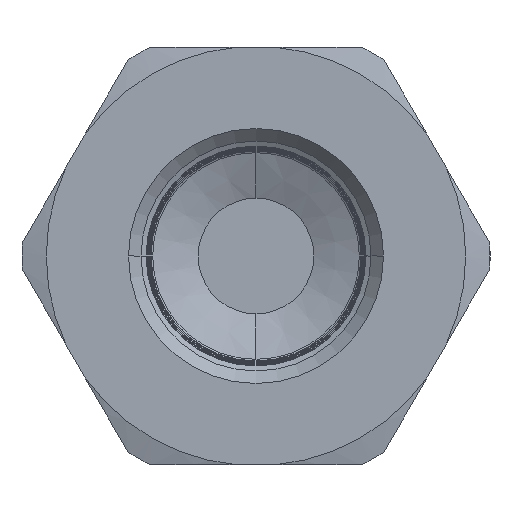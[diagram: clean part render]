
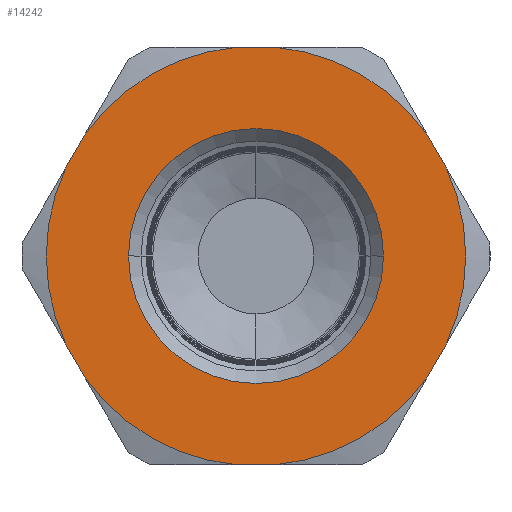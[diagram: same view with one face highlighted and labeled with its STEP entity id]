
A CAD part, left-side view. The second image highlights one B-rep face of the part: STEP entity #14242.
In plain terms, the highlighted planar face has unit normal (-1, 0, 0).
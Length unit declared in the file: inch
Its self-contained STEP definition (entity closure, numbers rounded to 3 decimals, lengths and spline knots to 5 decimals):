
#187 = ORIENTED_EDGE ( 'NONE', *, *, #14302, .T. ) ;
#188 = ORIENTED_EDGE ( 'NONE', *, *, #14319, .F. ) ;
#192 = ORIENTED_EDGE ( 'NONE', *, *, #14320, .F. ) ;
#195 = ORIENTED_EDGE ( 'NONE', *, *, #14316, .T. ) ;
#198 = ORIENTED_EDGE ( 'NONE', *, *, #14321, .F. ) ;
#200 = ORIENTED_EDGE ( 'NONE', *, *, #14305, .T. ) ;
#204 = ORIENTED_EDGE ( 'NONE', *, *, #14322, .F. ) ;
#206 = ORIENTED_EDGE ( 'NONE', *, *, #14281, .T. ) ;
#207 = ORIENTED_EDGE ( 'NONE', *, *, #14323, .F. ) ;
#208 = ORIENTED_EDGE ( 'NONE', *, *, #14288, .T. ) ;
#253 = ORIENTED_EDGE ( 'NONE', *, *, #14170, .T. ) ;
#255 = ORIENTED_EDGE ( 'NONE', *, *, #14275, .T. ) ;
#256 = ORIENTED_EDGE ( 'NONE', *, *, #14318, .F. ) ;
#257 = ORIENTED_EDGE ( 'NONE', *, *, #14295, .T. ) ;
#1076 = VERTEX_POINT ( 'NONE', #15683 ) ;
#1077 = VERTEX_POINT ( 'NONE', #15685 ) ;
#1098 = VERTEX_POINT ( 'NONE', #15723 ) ;
#1108 = VERTEX_POINT ( 'NONE', #15742 ) ;
#1114 = VERTEX_POINT ( 'NONE', #15754 ) ;
#1115 = VERTEX_POINT ( 'NONE', #15756 ) ;
#1120 = VERTEX_POINT ( 'NONE', #15766 ) ;
#1121 = VERTEX_POINT ( 'NONE', #15768 ) ;
#1126 = VERTEX_POINT ( 'NONE', #15778 ) ;
#1127 = VERTEX_POINT ( 'NONE', #15780 ) ;
#1128 = VERTEX_POINT ( 'NONE', #15782 ) ;
#1133 = VERTEX_POINT ( 'NONE', #15792 ) ;
#1136 = VERTEX_POINT ( 'NONE', #15798 ) ;
#1139 = VERTEX_POINT ( 'NONE', #15804 ) ;
#1602 = EDGE_LOOP ( 'NONE', ( #256, #257, #188, #187, #192, #195, #198, #200, #204, #206, #207, #208 ) ) ;
#1768 = AXIS2_PLACEMENT_3D ( 'NONE', #11918, #11923, #11924 ) ;
#1922 = VECTOR ( 'NONE', #12169, 39.37008 ) ;
#1953 = CIRCLE ( 'NONE', #1969, 0.345 ) ;
#1960 = AXIS2_PLACEMENT_3D ( 'NONE', #12066, #12067, #12068 ) ;
#1969 = AXIS2_PLACEMENT_3D ( 'NONE', #12158, #12159, #12160 ) ;
#1971 = VECTOR ( 'NONE', #12172, 39.37008 ) ;
#1972 = VECTOR ( 'NONE', #12166, 39.37008 ) ;
#1984 = VECTOR ( 'NONE', #12188, 39.37008 ) ;
#1997 = CIRCLE ( 'NONE', #2264, 0.345 ) ;
#2024 = VECTOR ( 'NONE', #12175, 39.37008 ) ;
#2029 = VECTOR ( 'NONE', #12181, 39.37008 ) ;
#2042 = CIRCLE ( 'NONE', #2120, 0.345 ) ;
#2120 = AXIS2_PLACEMENT_3D ( 'NONE', #12089, #12090, #12091 ) ;
#2128 = CIRCLE ( 'NONE', #2158, 0.345 ) ;
#2158 = AXIS2_PLACEMENT_3D ( 'NONE', #12112, #12113, #12114 ) ;
#2264 = AXIS2_PLACEMENT_3D ( 'NONE', #12123, #12124, #12125 ) ;
#2712 = CIRCLE ( 'NONE', #2715, 0.20972 ) ;
#2715 = AXIS2_PLACEMENT_3D ( 'NONE', #12024, #12025, #12026 ) ;
#2716 = CIRCLE ( 'NONE', #2723, 0.345 ) ;
#2722 = CIRCLE ( 'NONE', #1960, 0.345 ) ;
#2723 = AXIS2_PLACEMENT_3D ( 'NONE', #12043, #12044, #12045 ) ;
#3387 = AXIS2_PLACEMENT_3D ( 'NONE', #11662, #11663, #11664 ) ;
#3389 = CIRCLE ( 'NONE', #3387, 0.20972 ) ;
#9708 = EDGE_LOOP ( 'NONE', ( #253, #255 ) ) ;
#11662 = CARTESIAN_POINT ( 'NONE',  ( 0., 0., 0. ) ) ;
#11663 = DIRECTION ( 'NONE',  ( 1., 0., 0. ) ) ;
#11664 = DIRECTION ( 'NONE',  ( 0., 1., 0. ) ) ;
#11918 = CARTESIAN_POINT ( 'NONE',  ( 0., 0.39693, 0. ) ) ;
#11920 = FACE_BOUND ( 'NONE', #9708, .T. ) ;
#11921 = FACE_OUTER_BOUND ( 'NONE', #1602, .T. ) ;
#11922 = PLANE ( 'NONE',  #1768 ) ;
#11923 = DIRECTION ( 'NONE',  ( 1., 0., 0. ) ) ;
#11924 = DIRECTION ( 'NONE',  ( 0., 0., -1. ) ) ;
#12024 = CARTESIAN_POINT ( 'NONE',  ( 0., 0., 0. ) ) ;
#12025 = DIRECTION ( 'NONE',  ( 1., 0., 0. ) ) ;
#12026 = DIRECTION ( 'NONE',  ( 0., 1., 0. ) ) ;
#12043 = CARTESIAN_POINT ( 'NONE',  ( 0., 0., 0. ) ) ;
#12044 = DIRECTION ( 'NONE',  ( -1., 0., 0. ) ) ;
#12045 = DIRECTION ( 'NONE',  ( 0., 0., -1. ) ) ;
#12066 = CARTESIAN_POINT ( 'NONE',  ( 0., 0., 0. ) ) ;
#12067 = DIRECTION ( 'NONE',  ( -1., 0., 0. ) ) ;
#12068 = DIRECTION ( 'NONE',  ( 0., 0., -1. ) ) ;
#12089 = CARTESIAN_POINT ( 'NONE',  ( 0., 0., 0. ) ) ;
#12090 = DIRECTION ( 'NONE',  ( -1., 0., 0. ) ) ;
#12091 = DIRECTION ( 'NONE',  ( 0., 0., -1. ) ) ;
#12112 = CARTESIAN_POINT ( 'NONE',  ( 0., 0., 0. ) ) ;
#12113 = DIRECTION ( 'NONE',  ( -1., 0., 0. ) ) ;
#12114 = DIRECTION ( 'NONE',  ( 0., 0., -1. ) ) ;
#12123 = CARTESIAN_POINT ( 'NONE',  ( 0., 0., 0. ) ) ;
#12124 = DIRECTION ( 'NONE',  ( -1., 0., 0. ) ) ;
#12125 = DIRECTION ( 'NONE',  ( 0., 0., -1. ) ) ;
#12158 = CARTESIAN_POINT ( 'NONE',  ( 0., 0., 0. ) ) ;
#12159 = DIRECTION ( 'NONE',  ( -1., 0., 0. ) ) ;
#12160 = DIRECTION ( 'NONE',  ( 0., 0., -1. ) ) ;
#12164 = LINE ( 'NONE', #12165, #1972 ) ;
#12165 = CARTESIAN_POINT ( 'NONE',  ( 0., 0.19846, 0.34375 ) ) ;
#12166 = DIRECTION ( 'NONE',  ( 0., -1., 0. ) ) ;
#12167 = LINE ( 'NONE', #12168, #1922 ) ;
#12168 = CARTESIAN_POINT ( 'NONE',  ( 0., 0.39693, 0. ) ) ;
#12169 = DIRECTION ( 'NONE',  ( 0., -0.5, 0.866 ) ) ;
#12170 = LINE ( 'NONE', #12171, #1971 ) ;
#12171 = CARTESIAN_POINT ( 'NONE',  ( 0., 0.19846, -0.34375 ) ) ;
#12172 = DIRECTION ( 'NONE',  ( 0., 0.5, 0.866 ) ) ;
#12173 = LINE ( 'NONE', #12174, #2024 ) ;
#12174 = CARTESIAN_POINT ( 'NONE',  ( 0., -0.19846, -0.34375 ) ) ;
#12175 = DIRECTION ( 'NONE',  ( 0., 1., 0. ) ) ;
#12176 = LINE ( 'NONE', #12179, #2029 ) ;
#12179 = CARTESIAN_POINT ( 'NONE',  ( 0., -0.39693, 0. ) ) ;
#12181 = DIRECTION ( 'NONE',  ( 0., 0.5, -0.866 ) ) ;
#12183 = LINE ( 'NONE', #12186, #1984 ) ;
#12186 = CARTESIAN_POINT ( 'NONE',  ( 0., -0.19846, 0.34375 ) ) ;
#12188 = DIRECTION ( 'NONE',  ( 0., -0.5, -0.866 ) ) ;
#14170 = EDGE_CURVE ( 'NONE', #1076, #1077, #3389, .T. ) ;
#14242 = ADVANCED_FACE ( 'NONE', ( #11920, #11921 ), #11922, .F. ) ;
#14275 = EDGE_CURVE ( 'NONE', #1077, #1076, #2712, .T. ) ;
#14281 = EDGE_CURVE ( 'NONE', #1098, #1108, #2716, .T. ) ;
#14288 = EDGE_CURVE ( 'NONE', #1115, #1114, #2722, .T. ) ;
#14295 = EDGE_CURVE ( 'NONE', #1121, #1120, #2042, .T. ) ;
#14302 = EDGE_CURVE ( 'NONE', #1127, #1126, #2128, .T. ) ;
#14305 = EDGE_CURVE ( 'NONE', #1133, #1128, #1997, .T. ) ;
#14316 = EDGE_CURVE ( 'NONE', #1136, #1139, #1953, .T. ) ;
#14318 = EDGE_CURVE ( 'NONE', #1121, #1114, #12164, .T. ) ;
#14319 = EDGE_CURVE ( 'NONE', #1127, #1120, #12167, .T. ) ;
#14320 = EDGE_CURVE ( 'NONE', #1136, #1126, #12170, .T. ) ;
#14321 = EDGE_CURVE ( 'NONE', #1133, #1139, #12173, .T. ) ;
#14322 = EDGE_CURVE ( 'NONE', #1098, #1128, #12176, .T. ) ;
#14323 = EDGE_CURVE ( 'NONE', #1115, #1108, #12183, .T. ) ;
#15683 = CARTESIAN_POINT ( 'NONE',  ( 0., -0.20972, 0. ) ) ;
#15685 = CARTESIAN_POINT ( 'NONE',  ( 0., 0.20972, 0. ) ) ;
#15723 = CARTESIAN_POINT ( 'NONE',  ( 0., -0.31237, -0.14646 ) ) ;
#15742 = CARTESIAN_POINT ( 'NONE',  ( 0., -0.31237, 0.14646 ) ) ;
#15754 = CARTESIAN_POINT ( 'NONE',  ( 0., -0.02934, 0.34375 ) ) ;
#15756 = CARTESIAN_POINT ( 'NONE',  ( 0., -0.28303, 0.19729 ) ) ;
#15766 = CARTESIAN_POINT ( 'NONE',  ( 0., 0.28303, 0.19729 ) ) ;
#15768 = CARTESIAN_POINT ( 'NONE',  ( 0., 0.02934, 0.34375 ) ) ;
#15778 = CARTESIAN_POINT ( 'NONE',  ( 0., 0.31237, -0.14646 ) ) ;
#15780 = CARTESIAN_POINT ( 'NONE',  ( 0., 0.31237, 0.14646 ) ) ;
#15782 = CARTESIAN_POINT ( 'NONE',  ( 0., -0.28303, -0.19729 ) ) ;
#15792 = CARTESIAN_POINT ( 'NONE',  ( 0., -0.02934, -0.34375 ) ) ;
#15798 = CARTESIAN_POINT ( 'NONE',  ( 0., 0.28303, -0.19729 ) ) ;
#15804 = CARTESIAN_POINT ( 'NONE',  ( 0., 0.02934, -0.34375 ) ) ;
